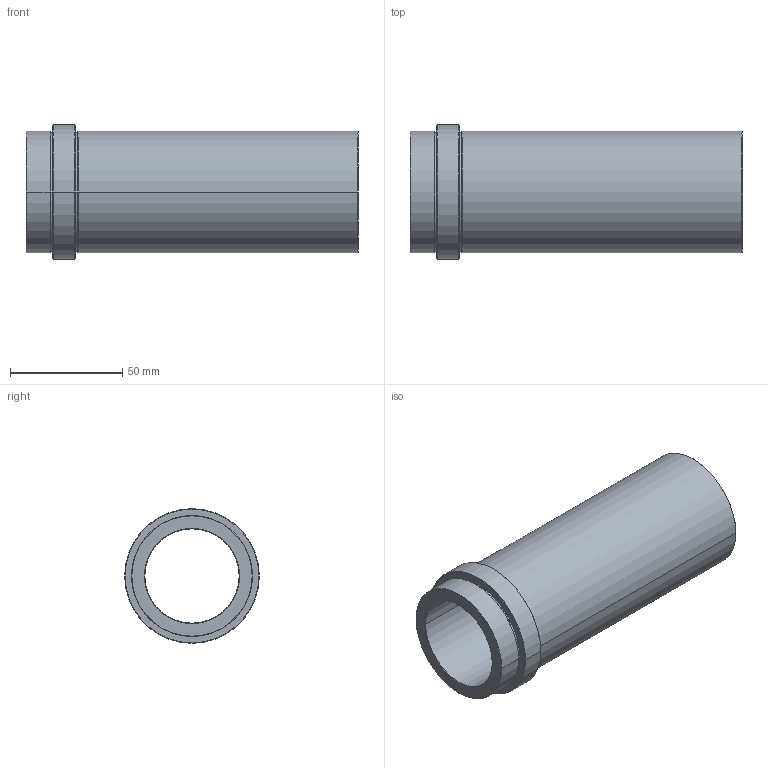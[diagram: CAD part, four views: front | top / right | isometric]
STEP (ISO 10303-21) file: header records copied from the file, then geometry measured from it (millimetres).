
FILE_DESCRIPTION (( 'STEP AP214' ), '1' );
FILE_NAME ('R04_136x42.STEP', '2015-03-05T14:59:54', ( 'TGL' ), ( '' ), 'SwSTEP 2.0', 'SolidWorks 2011', '' );
FILE_SCHEMA (( 'AUTOMOTIVE_DESIGN' ));
Length unit declared in the file: millimetre
Products named in the file (1): R04_136x42
Bounding box: 148 x 60 x 60 mm (x, y, z)
Volume: 138003.2 mm3; surface area: 47574.7 mm2
Topology: 1 solids, 1 shells, 33 faces, 66 edges, 38 vertices
Faces by surface type: cone 14, cylinder 12, plane 5, torus 2
Entity records: 894 total; most frequent: DIRECTION 174, CARTESIAN_POINT 138, ORIENTED_EDGE 132, AXIS2_PLACEMENT_3D 74, EDGE_CURVE 66, CIRCLE 40, EDGE_LOOP 38, VERTEX_POINT 38
